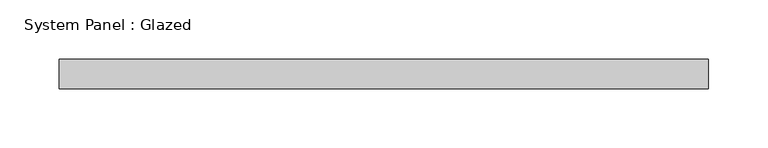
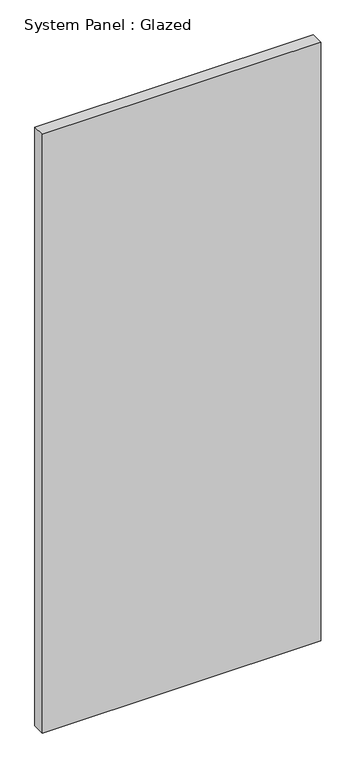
"""IFC4 building model written with IfcOpenShell, lengths in millimetres: plate geometry, System Panel : Glazed."""

from ifc_helpers import new_model, si_unit, origin, origin_with_axes, place, context, project, spatial, polyline, outline, extrude, source, transform, mapped, element, save


def system_panel_glazed_1a7b642d(model_context):
    return source(origin(), model_context, "Body", "SweptSolid", [
        extrude(outline(polyline([(275.0, 24.5), (-275.0, 24.5), (-275.0, 49.5), (275.0, 49.5), (275.0, 24.5)])), origin_with_axes(), (0.0, 0.0, 1.0), 1250.0),
    ])


if __name__ == "__main__":
    model = new_model("IFC4")
    model_context = context("Model", 3, world=origin())
    ifc_project = project(units=[si_unit("LENGTHUNIT", "METRE", prefix="MILLI")], contexts=[model_context])
    site = spatial("IfcSite", under=ifc_project)
    building = spatial("IfcBuilding", under=site)
    placement = place(None, origin())
    system_panel_glazed_shape = system_panel_glazed_1a7b642d(model_context)
    element("IfcPlate", 1, ObjectType="System Panel : Glazed", at=placement, inside=building, context=model_context, shape_type="MappedRepresentation", body=[
        mapped(system_panel_glazed_shape, transform((0.0, 0.0, 0.0), x_axis=(1.0, 0.0, 0.0), y_axis=(0.0, 1.0, 0.0), z_axis=(0.0, 0.0, 1.0))),
    ])
    save(model, "model.ifc")
